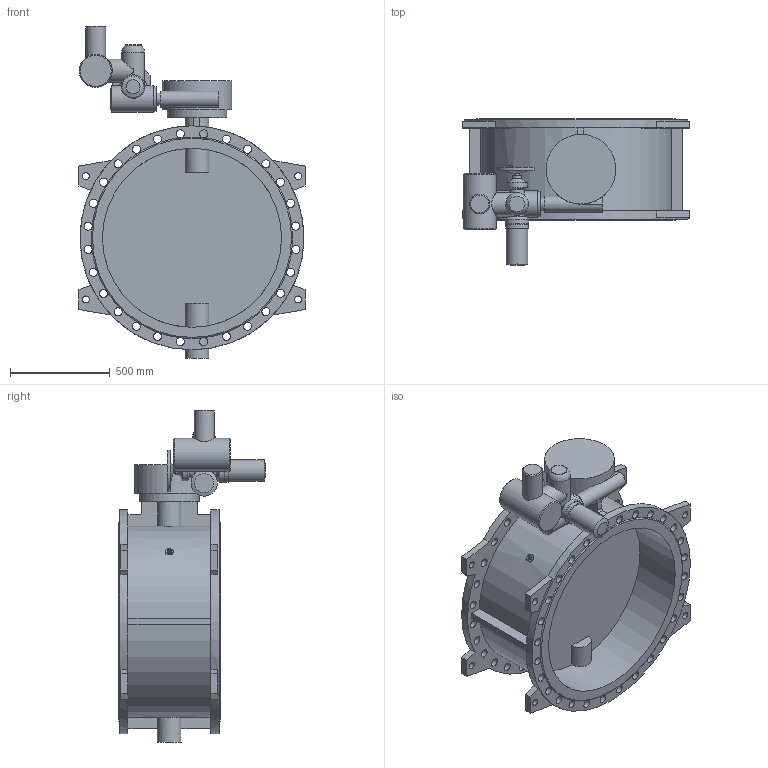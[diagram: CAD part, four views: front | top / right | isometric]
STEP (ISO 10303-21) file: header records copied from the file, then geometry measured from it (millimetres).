
FILE_DESCRIPTION(('STEP AP203'), '1');
FILE_NAME('Çàòâîð 023F.Z DN900 PN16 + ðåäóêòîð + ÌÒ903.À10 ñ ÁÓ', '', ('UNSPECIFIED'), ('UNSPECIFIED'), 'ASCON STEP Converter 1.6', 'ASCON Math Kernel', '');
FILE_SCHEMA(('CONFIG_CONTROL_DESIGN'));
Length unit declared in the file: millimetre
Bounding box: 1136 x 738 x 1668 mm (x, y, z)
Volume: 150803780 mm3; surface area: 7091837.7 mm2
Topology: 1 solids, 1 shells, 270 faces, 827 edges, 542 vertices
Faces by surface type: cylinder 133, plane 123, cone 13, torus 1
Full cylindrical faces by diameter (mm): 8.5 x4, 12 x4, 14 x8, 18 x8, 24 x1, 35 x8, 41 x56, 42 x1, 60 x1, 66 x1, 72 x1, 80 x2, 100 x2, 108 x1, 114 x1, 115 x1, 116 x1, 119 x1, 120 x1, 125 x1, 132 x1, 166 x1, 300 x1, 350 x1, 900 x2, 1125 x2
Entity records: 16464 total; most frequent: CARTESIAN_POINT 6965, DIRECTION 1548, ORIENTED_EDGE 1394, EDGE_CURVE 697, AXIS2_PLACEMENT_3D 673, VERTEX_POINT 541, EDGE_LOOP 510, CIRCLE 403
